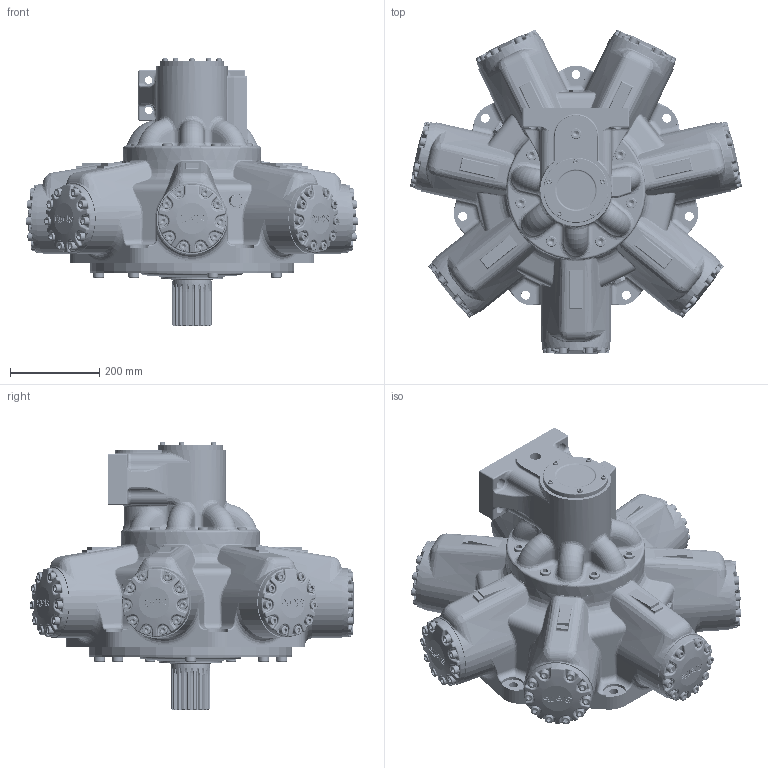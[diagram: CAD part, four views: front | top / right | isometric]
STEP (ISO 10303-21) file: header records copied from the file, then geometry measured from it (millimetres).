
FILE_DESCRIPTION(/* description */ (''),/* implementation_level */ '2;1');
FILE_NAME(/* name */ 'HMB325_S3_SM4.stp',/* time_stamp */ '2025-09-04T11:35:16+01:00',/* author */ ('ccallanga'),/* organization */ (''),/* preprocessor_version */ 'ST-DEVELOPER v20',/* originating_system */ 'Autodesk Inventor 2024',/* authorisation */ '');
FILE_SCHEMA (('AUTOMOTIVE_DESIGN { 1 0 10303 214 3 1 1 }'));
Products named in the file (1): HMB325 Web Assembly_Simplify_1
Bounding box: 744.35 x 728.18 x 598.74 mm (x, y, z)
Volume: 71640848.2 mm3; surface area: 1700114.5 mm2
Topology: 1 solids, 1 shells, 6118 faces, 14832 edges, 8735 vertices
Faces by surface type: bspline 2334, plane 1574, cylinder 1317, torus 564, sphere 165, cone 164
Full cylindrical faces by diameter (mm): 2.2 x4, 11.913 x5, 12.7 x5, 14.351 x2, 16.51 x1, 17 x4, 17.323 x1, 19.05 x70, 20 x7, 20.637 x70, 23.825 x14, 25 x4, 25.4 x14, 26.92 x2, 38 x2, 38.1 x3, 87.889 x1, 101.575 x1, 106.68 x1, 139.7 x1, 146.05 x1, 311 x1, 311.15 x1, 457.11 x1
Entity records: 275514 total; most frequent: CARTESIAN_POINT 144336, ORIENTED_EDGE 29110, DIRECTION 20889, EDGE_CURVE 14555, VERTEX_POINT 8735, AXIS2_PLACEMENT_3D 8203, EDGE_LOOP 6436, STYLED_ITEM 6119
